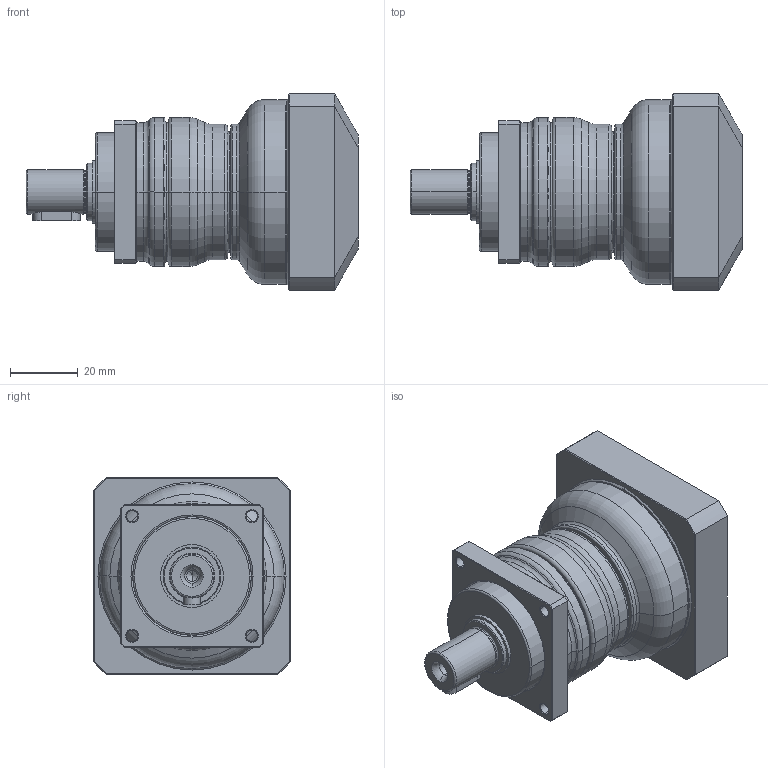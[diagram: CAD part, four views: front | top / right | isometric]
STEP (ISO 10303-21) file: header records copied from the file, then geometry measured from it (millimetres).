
FILE_DESCRIPTION((''),'2;1');
FILE_NAME('PA2-042_1ST_8-P0411100101_ASM','2016-05-04T',('d01943'),(''),'PRO/ENGINEER BY PARAMETRIC TECHNOLOGY CORPORATION, 2008410','PRO/ENGINEER BY PARAMETRIC TECHNOLOGY CORPORATION, 2008410','');
FILE_SCHEMA(('CONFIG_CONTROL_DESIGN'));
Length unit declared in the file: millimetre
Products named in the file (9): P1327100001; P0250100001; P1324100001; P0350100601; P0941100001; P0503100005; P0411100101; P1702300001; PA2-042_1ST_8-P0411100101_ASM
Assembly tree (8 placements, depth 2):
  PA2-042_1ST_8-P0411100101_ASM
    P1327100001
    P0250100001
    P1324100001
    P0350100601
    P0941100001
    P0503100005
    P0411100101
    P1702300001
Bounding box: 98 x 58 x 58 mm (x, y, z)
Volume: 116193.2 mm3; surface area: 45541.9 mm2
Topology: 8 solids, 8 shells, 463 faces, 1027 edges, 598 vertices
Faces by surface type: cone 140, cylinder 131, torus 90, plane 86, bspline 16
Entity records: 17919 total; most frequent: CARTESIAN_POINT 7370, DIRECTION 2376, ORIENTED_EDGE 2030, AXIS2_PLACEMENT_3D 1016, EDGE_CURVE 1015, VERTEX_POINT 598, CIRCLE 552, EDGE_LOOP 525
